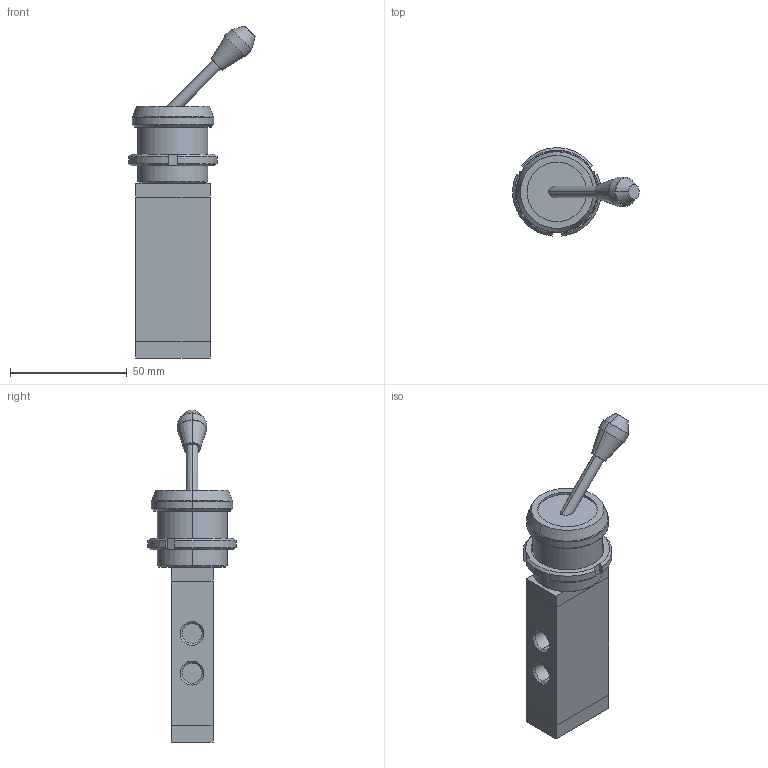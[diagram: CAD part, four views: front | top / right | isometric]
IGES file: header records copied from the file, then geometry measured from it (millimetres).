
Global section: file name: No Iges File Name specified; native system: AutoDesk Inventor R11.0; preprocessor: AutoDesk Inventor Iges Exporter R11.0; author: No Author specified; organization: No Organization specified; date: 20061219.114151; units: millimetre
Bounding box: 54.24 x 37.82 x 142.3 mm (x, y, z)
Volume: 69513.3 mm3; surface area: 16589.5 mm2
Topology: 2 solids, 2 shells, 99 faces, 220 edges, 138 vertices
Faces by surface type: plane 37, bspline 29, cone 18, cylinder 11, revolution 4
